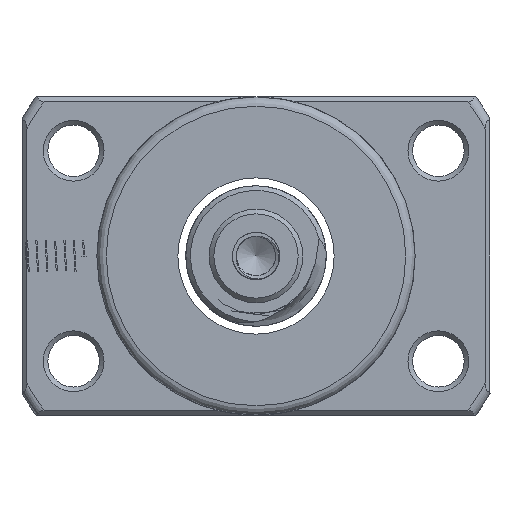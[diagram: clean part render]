
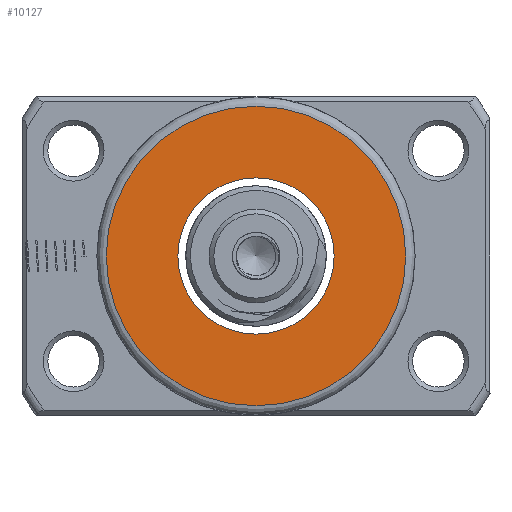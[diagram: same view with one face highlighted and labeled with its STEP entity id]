
A CAD part, left-side view. The second image highlights one B-rep face of the part: STEP entity #10127.
In plain terms, the highlighted planar face has unit normal (-1, 0, 0).
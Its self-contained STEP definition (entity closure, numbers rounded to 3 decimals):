
#1260 = CARTESIAN_POINT ( 'NONE',  ( -53.324, 0., 8.35 ) ) ;
#2811 = VERTEX_POINT ( 'NONE', #15639 ) ;
#4819 = EDGE_CURVE ( 'NONE', #17671, #17671, #12121, .T. ) ;
#4891 = AXIS2_PLACEMENT_3D ( 'NONE', #11892, #15929, #14374 ) ;
#5038 = ORIENTED_EDGE ( 'NONE', *, *, #15284, .T. ) ;
#5175 = FACE_OUTER_BOUND ( 'NONE', #12203, .T. ) ;
#5222 = DIRECTION ( 'NONE',  ( 0., 0., 1. ) ) ;
#6187 = CARTESIAN_POINT ( 'NONE',  ( -53.324, 8.35, 0. ) ) ;
#9276 = CIRCLE ( 'NONE', #4891, 16. ) ;
#10127 = ADVANCED_FACE ( 'NONE', ( #5175, #16360 ), #13153, .T. ) ;
#10364 = AXIS2_PLACEMENT_3D ( 'NONE', #13474, #13199, #5222 ) ;
#10398 = DIRECTION ( 'NONE',  ( 0., 0., 1. ) ) ;
#11191 = EDGE_LOOP ( 'NONE', ( #13512 ) ) ;
#11892 = CARTESIAN_POINT ( 'NONE',  ( -53.324, 0., 0. ) ) ;
#12121 = CIRCLE ( 'NONE', #10364, 8.35 ) ;
#12203 = EDGE_LOOP ( 'NONE', ( #5038 ) ) ;
#13153 = PLANE ( 'NONE',  #17186 ) ;
#13199 = DIRECTION ( 'NONE',  ( -1., 0., 0. ) ) ;
#13474 = CARTESIAN_POINT ( 'NONE',  ( -53.324, 0., 0. ) ) ;
#13512 = ORIENTED_EDGE ( 'NONE', *, *, #4819, .F. ) ;
#14374 = DIRECTION ( 'NONE',  ( 0., 0., 1. ) ) ;
#15284 = EDGE_CURVE ( 'NONE', #2811, #2811, #9276, .T. ) ;
#15639 = CARTESIAN_POINT ( 'NONE',  ( -53.324, 0., 16. ) ) ;
#15929 = DIRECTION ( 'NONE',  ( -1., 0., 0. ) ) ;
#16360 = FACE_BOUND ( 'NONE', #11191, .T. ) ;
#17186 = AXIS2_PLACEMENT_3D ( 'NONE', #6187, #17371, #10398 ) ;
#17371 = DIRECTION ( 'NONE',  ( -1., 0., 0. ) ) ;
#17671 = VERTEX_POINT ( 'NONE', #1260 ) ;
